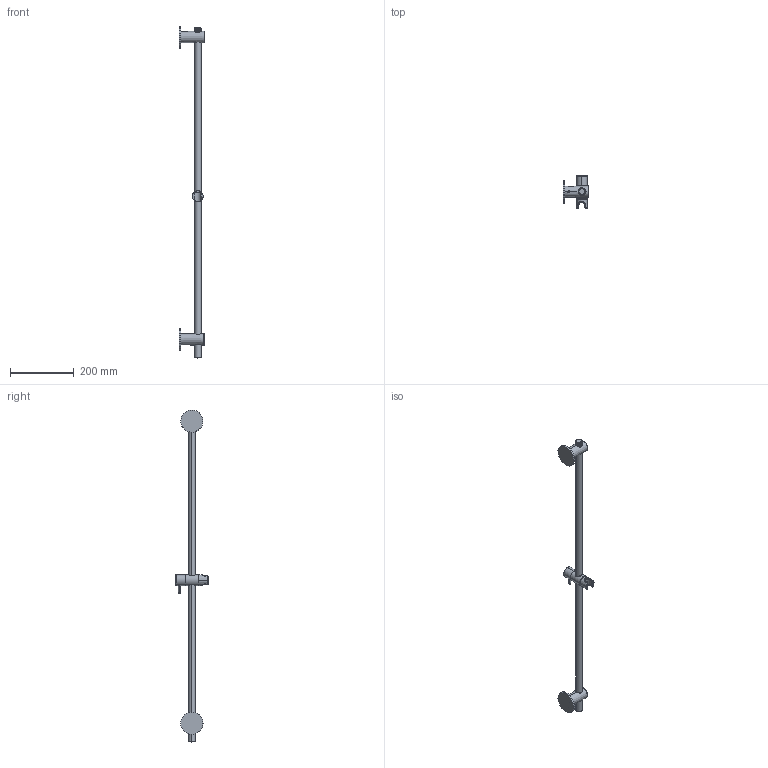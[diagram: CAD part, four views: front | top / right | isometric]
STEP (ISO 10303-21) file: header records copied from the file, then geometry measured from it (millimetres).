
FILE_DESCRIPTION((''),'2;1');
FILE_NAME('76685--00_SUB01_SW0001','2026-10-06T10:32:45',('simi1'),(''),'CREO PARAMETRIC BY PTC INC, 2022244','CREO PARAMETRIC BY PTC INC, 2022244','');
FILE_SCHEMA(('CONFIG_CONTROL_DESIGN'));
Length unit declared in the file: millimetre
Products named in the file (1): 76685--00_SUB01_SW0001
Bounding box: 79.2 x 101.44 x 1043.6 mm (x, y, z)
Surface area: 122646 mm2 (no closed solid volume)
Topology: 0 solids, 19 shells, 126 faces, 407 edges, 266 vertices
Faces by surface type: bspline 33, cylinder 30, torus 22, cone 20, plane 13, sphere 8
Entity records: 10399 total; most frequent: CARTESIAN_POINT 7298, ORIENTED_EDGE 634, DIRECTION 552, EDGE_CURVE 399, VERTEX_POINT 266, AXIS2_PLACEMENT_3D 244, B_SPLINE_CURVE_WITH_KNOTS 184, CIRCLE 151
